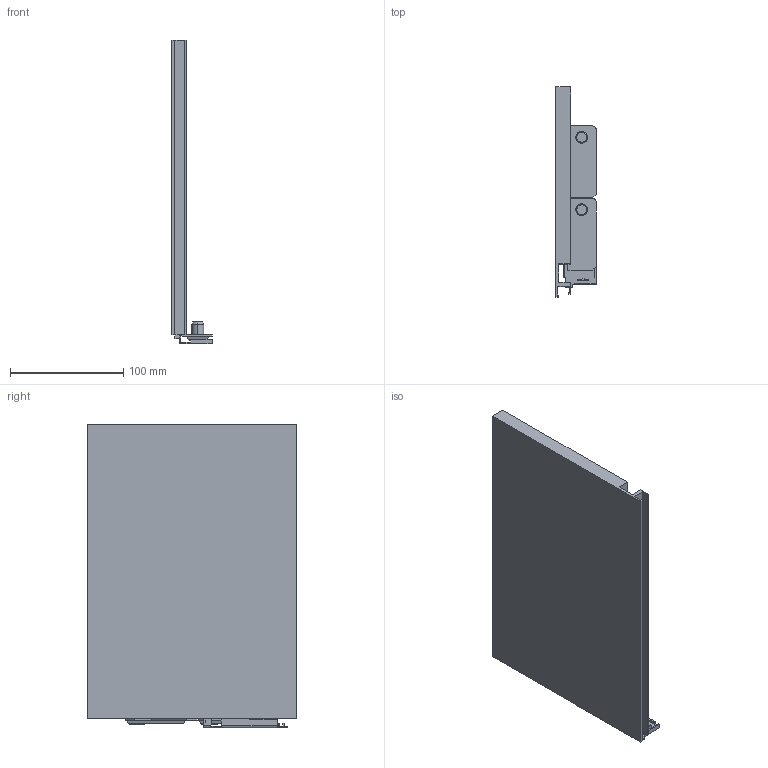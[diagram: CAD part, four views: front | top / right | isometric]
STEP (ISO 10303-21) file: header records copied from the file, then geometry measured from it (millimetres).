
FILE_DESCRIPTION (( 'STEP AP214' ), '1' );
FILE_NAME ('Vionaro_Alu-Zarge_H185_NL270_LI.STEP', '2014-08-20T15:00:49', ( '' ), ( '' ), 'SwSTEP 2.0', 'SolidWorks 2013', '' );
FILE_SCHEMA (( 'AUTOMOTIVE_DESIGN' ));
Length unit declared in the file: millimetre
Products named in the file (1): Vionaro_Alu-Zarge_H185_NL270_LI
Bounding box: 35.6 x 185 x 267.9 mm (x, y, z)
Volume: 570206.8 mm3; surface area: 128994.1 mm2
Topology: 1 solids, 1 shells, 136 faces, 358 edges, 235 vertices
Faces by surface type: plane 96, cylinder 32, cone 8
Entity records: 4207 total; most frequent: CARTESIAN_POINT 736, ORIENTED_EDGE 716, DIRECTION 705, EDGE_CURVE 358, VECTOR 281, LINE 281, VERTEX_POINT 235, AXIS2_PLACEMENT_3D 212
